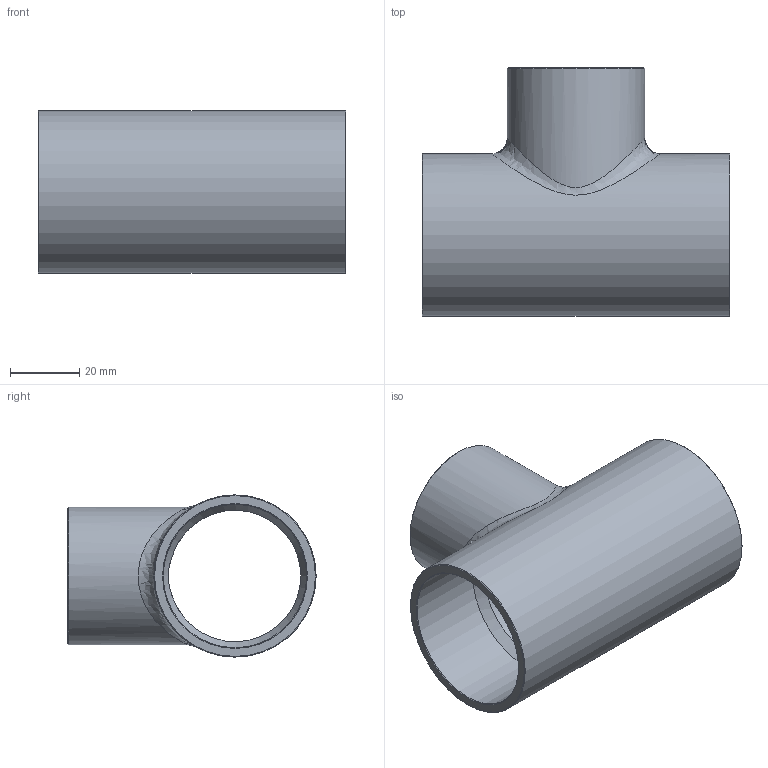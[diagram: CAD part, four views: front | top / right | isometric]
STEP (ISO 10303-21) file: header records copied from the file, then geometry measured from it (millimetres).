
FILE_DESCRIPTION((''),'2;1');
FILE_NAME('G:\SANHA-Ternat\Technik\Management\Bouwmaten + markeringen\z-maattekeningen 3D\29000s\29130158138158_3d.stp','2017-08-03T13:16:08',('vdvijverd'),(''),'Autodesk Inventor 2009','Autodesk Inventor 2009','');
FILE_SCHEMA(('AUTOMOTIVE_DESIGN { 1 0 10303 214 1 1 1 1 }'));
Length unit declared in the file: millimetre
Products named in the file (1): 29130158138158_3d
Bounding box: 89 x 71.75 x 46.9 mm (x, y, z)
Volume: 46500.1 mm3; surface area: 30181.7 mm2
Topology: 1 solids, 1 shells, 22 faces, 56 edges, 35 vertices
Faces by surface type: cone 8, cylinder 7, bspline 4, plane 3
Full cylindrical faces by diameter (mm): 35.105 x1, 39.7 x1, 41.455 x1, 46.9 x1
Entity records: 2297 total; most frequent: CARTESIAN_POINT 1850, DIRECTION 84, ORIENTED_EDGE 70, AXIS2_PLACEMENT_3D 42, EDGE_LOOP 40, EDGE_CURVE 35, VERTEX_POINT 29, CIRCLE 23
